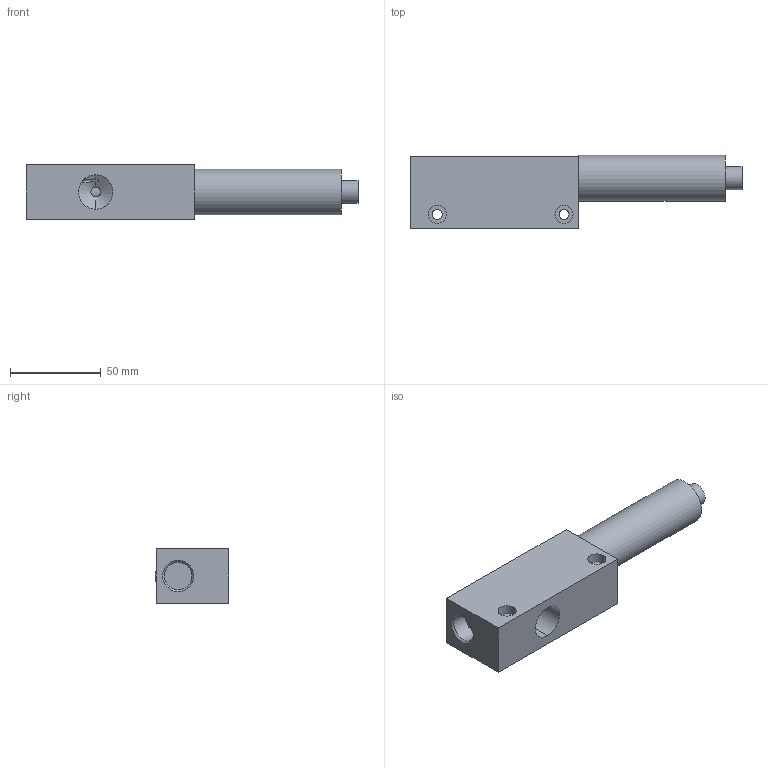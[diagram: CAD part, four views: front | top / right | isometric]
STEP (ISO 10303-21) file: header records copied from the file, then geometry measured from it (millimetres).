
FILE_DESCRIPTION (( 'STEP AP214' ), '1' );
FILE_NAME ('SSV-500-1.STEP', '2025-09-15T17:34:27', ( '' ), ( '' ), 'SwSTEP 2.0', 'SolidWorks 2025', '' );
FILE_SCHEMA (( 'AUTOMOTIVE_DESIGN' ));
Length unit declared in the file: inch
Products named in the file (3): SSV-220 body; GS-ST38; SSV-500-1
Assembly tree (2 placements, depth 2):
  SSV-500-1
    SSV-220 body
    GS-ST38
Bounding box: 183.2 x 40.69 x 30 mm (x, y, z)
Volume: 135017.5 mm3; surface area: 30348.8 mm2
Topology: 2 solids, 4 shells, 82 faces, 173 edges, 104 vertices
Faces by surface type: cylinder 32, cone 30, plane 20
Full cylindrical faces by diameter (mm): 11 x2, 12.7 x2, 14.3 x5, 15.25 x1, 25.4 x1
Entity records: 2464 total; most frequent: CARTESIAN_POINT 676, DIRECTION 393, ORIENTED_EDGE 284, AXIS2_PLACEMENT_3D 173, EDGE_CURVE 142, EDGE_LOOP 123, VERTEX_POINT 103, FACE_OUTER_BOUND 93
